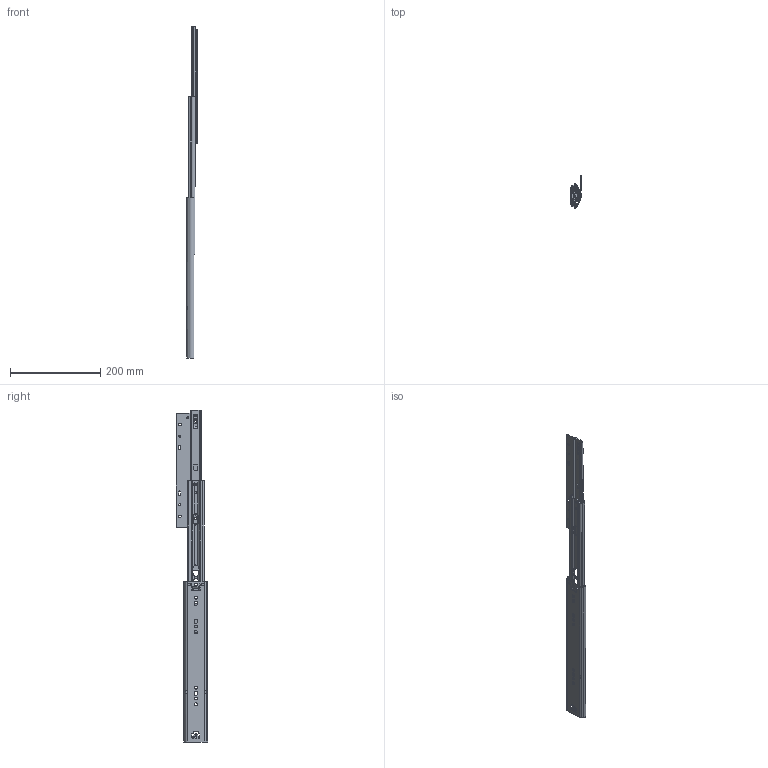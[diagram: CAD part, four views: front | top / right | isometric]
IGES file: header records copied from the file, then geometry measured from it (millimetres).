
Global section: file name: No Iges File Name specified; native system: Autodesk Inventor 2012; preprocessor: AutoDesk Inventor Iges Exporter R2012; author: HV83751; date: 20130708.083417; units: inch
Bounding box: 22.61 x 70.18 x 737.06 mm (x, y, z)
Surface area: 169137 mm2
Topology: 6 solids, 23 shells, 1394 faces, 4108 edges, 2645 vertices
Faces by surface type: plane 717, revolution 345, cylinder 285, bspline 38, torus 9
